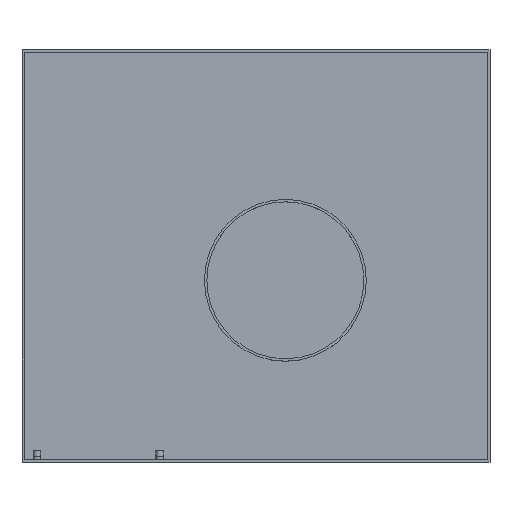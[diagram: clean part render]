
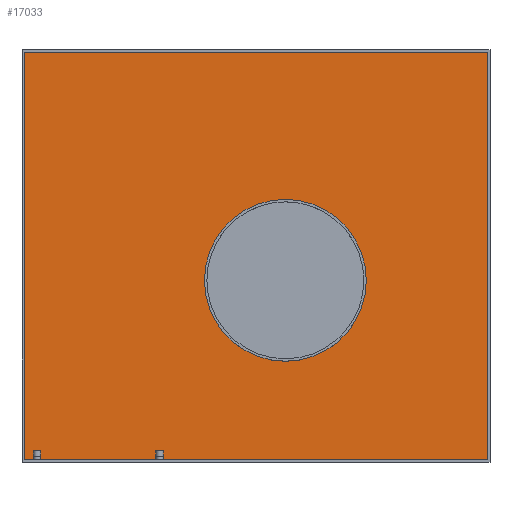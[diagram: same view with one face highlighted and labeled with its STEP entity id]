
A CAD part, top view. The second image highlights one B-rep face of the part: STEP entity #17033.
In plain terms, the highlighted planar face has unit normal (0, 0, 1).
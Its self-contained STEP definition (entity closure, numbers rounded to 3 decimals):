
#132=FACE_BOUND('',#4021,.T.);
#2978=FACE_OUTER_BOUND('',#4020,.T.);
#4020=EDGE_LOOP('',(#15691,#15692,#15693,#15694));
#4021=EDGE_LOOP('',(#15695));
#4389=CIRCLE('',#17575,99.25);
#5445=LINE('',#45402,#6539);
#5447=LINE('',#45406,#6541);
#5448=LINE('',#45408,#6542);
#5449=LINE('',#45409,#6543);
#6539=VECTOR('',#19595,10.);
#6541=VECTOR('',#19599,10.);
#6542=VECTOR('',#19600,10.);
#6543=VECTOR('',#19601,10.);
#8278=VERTEX_POINT('',#45399);
#8279=VERTEX_POINT('',#45401);
#8280=VERTEX_POINT('',#45405);
#8281=VERTEX_POINT('',#45407);
#8282=VERTEX_POINT('',#45410);
#10787=EDGE_CURVE('',#8279,#8278,#5445,.T.);
#10789=EDGE_CURVE('',#8280,#8279,#5447,.T.);
#10790=EDGE_CURVE('',#8281,#8278,#5448,.T.);
#10791=EDGE_CURVE('',#8281,#8280,#5449,.T.);
#10792=EDGE_CURVE('',#8282,#8282,#4389,.T.);
#15691=ORIENTED_EDGE('',*,*,#10789,.T.);
#15692=ORIENTED_EDGE('',*,*,#10787,.T.);
#15693=ORIENTED_EDGE('',*,*,#10790,.F.);
#15694=ORIENTED_EDGE('',*,*,#10791,.T.);
#15695=ORIENTED_EDGE('',*,*,#10792,.F.);
#16133=PLANE('',#17574);
#17033=ADVANCED_FACE('',(#2978,#132),#16133,.T.);
#17574=AXIS2_PLACEMENT_3D('',#45404,#19597,#19598);
#17575=AXIS2_PLACEMENT_3D('',#45411,#19602,#19603);
#19595=DIRECTION('',(0.,1.,0.));
#19597=DIRECTION('center_axis',(0.,0.,1.));
#19598=DIRECTION('ref_axis',(1.,0.,0.));
#19599=DIRECTION('',(1.,0.,0.));
#19600=DIRECTION('',(1.,0.,0.));
#19601=DIRECTION('',(0.,-1.,0.));
#19602=DIRECTION('center_axis',(0.,0.,1.));
#19603=DIRECTION('ref_axis',(0.,-1.,0.));
#45399=CARTESIAN_POINT('',(201.371,263.791,146.));
#45401=CARTESIAN_POINT('',(201.371,-236.209,146.));
#45402=CARTESIAN_POINT('',(201.371,13.791,146.));
#45404=CARTESIAN_POINT('Origin',(-82.629,13.791,146.));
#45405=CARTESIAN_POINT('',(-366.629,-236.209,146.));
#45406=CARTESIAN_POINT('',(-82.629,-236.209,146.));
#45407=CARTESIAN_POINT('',(-366.629,263.791,146.));
#45408=CARTESIAN_POINT('',(-82.629,263.791,146.));
#45409=CARTESIAN_POINT('',(-366.629,13.791,146.));
#45410=CARTESIAN_POINT('',(-46.629,83.041,146.));
#45411=CARTESIAN_POINT('Origin',(-46.629,-16.209,146.));
